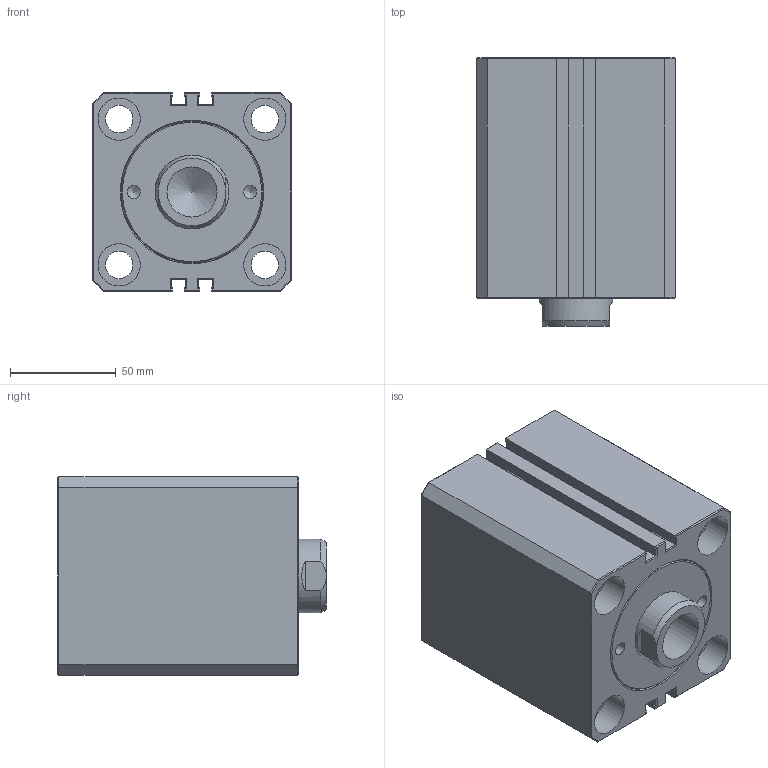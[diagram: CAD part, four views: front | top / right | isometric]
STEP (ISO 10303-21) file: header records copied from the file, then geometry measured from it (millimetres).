
FILE_DESCRIPTION(/* description */ ('Unknown'),/* implementation_level */ '2;1');
FILE_NAME(/* name */ 'HTM140-SD63X30N',/* time_stamp */ '2022-09-01T01:34:03+08:00',/* author */ ('Unknown'),/* organization */ ('Unknown'),/* preprocessor_version */ 'ST-DEVELOPER v16.7',/* originating_system */ 'DEX',/* authorisation */ $);
FILE_SCHEMA (('AUTOMOTIVE_DESIGN {1 0 10303 214 3 1 1}'));
Length unit declared in the file: millimetre
Products named in the file (1): HTM140-SD63X30N
Bounding box: 94 x 127 x 94 mm (x, y, z)
Volume: 898776.2 mm3; surface area: 89829.5 mm2
Topology: 1 solids, 1 shells, 187 faces, 428 edges, 257 vertices
Faces by surface type: plane 140, cylinder 19, cone 16, bspline 12
Full cylindrical faces by diameter (mm): 6 x1, 6.1 x2, 12.301 x2, 13 x4, 20 x8, 23.752 x1, 35 x1
Entity records: 6353 total; most frequent: CARTESIAN_POINT 1061, ORIENTED_EDGE 778, DIRECTION 768, EDGE_CURVE 389, LINE 294, VECTOR 294, VERTEX_POINT 248, FACE_BOUND 239
